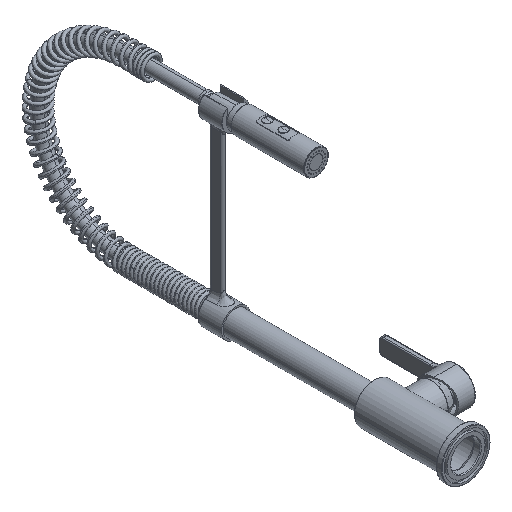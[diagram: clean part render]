
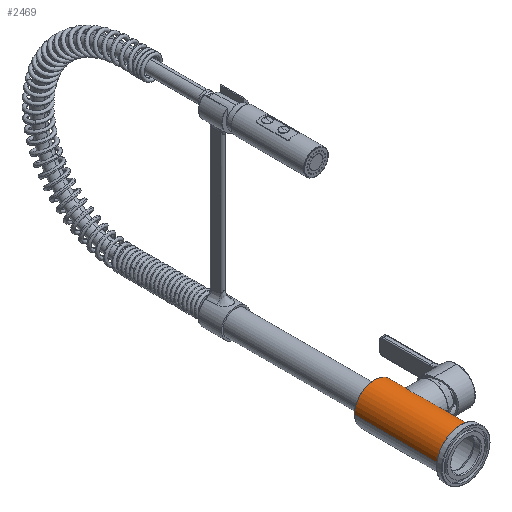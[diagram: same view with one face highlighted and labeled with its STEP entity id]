
A CAD part, isometric view. The second image highlights one B-rep face of the part: STEP entity #2469.
In plain terms, the highlighted cylindrical face has radius 24.75 mm (diameter 49.5 mm), a partial arc.
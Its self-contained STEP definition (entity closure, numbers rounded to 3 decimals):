
#784=B_SPLINE_CURVE_WITH_KNOTS('',3,(#54132,#54133,#54134,#54135,#54136,
#54137,#54138,#54139,#54140,#54141,#54142,#54143,#54144,#54145,#54146,#54147,
#54148,#54149),.UNSPECIFIED.,.F.,.F.,(4,2,2,2,2,2,2,2,4),(0.,0.125,0.25,
0.375,0.5,0.625,0.75,0.875,1.),.UNSPECIFIED.);
#1144=CYLINDRICAL_SURFACE('',#23812,24.75);
#1511=CIRCLE('',#23809,24.75);
#1512=CIRCLE('',#23811,24.75);
#2469=ADVANCED_FACE('',(#4526),#1144,.T.);
#4526=FACE_OUTER_BOUND('',#5855,.T.);
#5855=EDGE_LOOP('',(#7685,#7686,#7687,#7688,#7689,#7690));
#7685=ORIENTED_EDGE('',*,*,#16418,.T.);
#7686=ORIENTED_EDGE('',*,*,#16419,.F.);
#7687=ORIENTED_EDGE('',*,*,#16420,.F.);
#7688=ORIENTED_EDGE('',*,*,#16421,.T.);
#7689=ORIENTED_EDGE('',*,*,#16422,.F.);
#7690=ORIENTED_EDGE('',*,*,#16417,.T.);
#14192=VERTEX_POINT('',#54121);
#14193=VERTEX_POINT('',#54123);
#14194=VERTEX_POINT('',#54127);
#14195=VERTEX_POINT('',#54129);
#14196=VERTEX_POINT('',#54131);
#14197=VERTEX_POINT('',#54150);
#16417=EDGE_CURVE('',#14192,#14193,#1511,.T.);
#16418=EDGE_CURVE('',#14193,#14194,#19629,.T.);
#16419=EDGE_CURVE('',#14195,#14194,#1512,.T.);
#16420=EDGE_CURVE('',#14196,#14195,#19630,.T.);
#16421=EDGE_CURVE('',#14196,#14197,#784,.T.);
#16422=EDGE_CURVE('',#14192,#14197,#19631,.T.);
#19629=LINE('',#54126,#21648);
#19630=LINE('',#54130,#21649);
#19631=LINE('',#54151,#21650);
#21648=VECTOR('',#26229,1.);
#21649=VECTOR('',#26232,1.);
#21650=VECTOR('',#26233,1.);
#23809=AXIS2_PLACEMENT_3D('',#54124,#26225,#26226);
#23811=AXIS2_PLACEMENT_3D('',#54128,#26230,#26231);
#23812=AXIS2_PLACEMENT_3D('',#54152,#26234,#26235);
#26225=DIRECTION('',(0.,-1.,0.));
#26226=DIRECTION('',(1.,0.,0.));
#26229=DIRECTION('',(0.,-1.,0.));
#26230=DIRECTION('',(0.,-1.,0.));
#26231=DIRECTION('',(1.,0.,0.));
#26232=DIRECTION('',(0.,-1.,0.));
#26233=DIRECTION('',(0.,-1.,0.));
#26234=DIRECTION('',(0.,1.,0.));
#26235=DIRECTION('',(-1.,0.,0.));
#54121=CARTESIAN_POINT('',(24.75,105.5,0.));
#54123=CARTESIAN_POINT('',(-24.75,105.5,0.));
#54124=CARTESIAN_POINT('',(0.,105.5,0.));
#54126=CARTESIAN_POINT('',(-24.75,105.5,0.));
#54127=CARTESIAN_POINT('',(-24.75,0.5,0.));
#54128=CARTESIAN_POINT('',(0.,0.5,0.));
#54129=CARTESIAN_POINT('',(24.75,0.5,0.));
#54130=CARTESIAN_POINT('',(24.75,53.5,0.));
#54131=CARTESIAN_POINT('',(24.75,53.5,0.));
#54132=CARTESIAN_POINT('',(24.75,53.5,0.));
#54133=CARTESIAN_POINT('',(24.75,53.5,2.895));
#54134=CARTESIAN_POINT('',(24.226,54.126,5.715));
#54135=CARTESIAN_POINT('',(22.474,56.303,10.698));
#54136=CARTESIAN_POINT('',(21.256,57.842,12.868));
#54137=CARTESIAN_POINT('',(18.651,61.465,16.418));
#54138=CARTESIAN_POINT('',(17.23,63.57,17.837));
#54139=CARTESIAN_POINT('',(14.837,68.337,19.872));
#54140=CARTESIAN_POINT('',(13.868,71.149,20.5));
#54141=CARTESIAN_POINT('',(13.867,76.846,20.5));
#54142=CARTESIAN_POINT('',(14.828,79.644,19.879));
#54143=CARTESIAN_POINT('',(17.228,84.429,17.839));
#54144=CARTESIAN_POINT('',(18.647,86.53,16.422));
#54145=CARTESIAN_POINT('',(21.254,90.156,12.872));
#54146=CARTESIAN_POINT('',(22.47,91.692,10.706));
#54147=CARTESIAN_POINT('',(24.222,93.87,5.728));
#54148=CARTESIAN_POINT('',(24.75,94.5,2.896));
#54149=CARTESIAN_POINT('',(24.75,94.5,0.));
#54150=CARTESIAN_POINT('',(24.75,94.5,0.));
#54151=CARTESIAN_POINT('',(24.75,105.5,0.));
#54152=CARTESIAN_POINT('',(0.,-5.3,0.));
